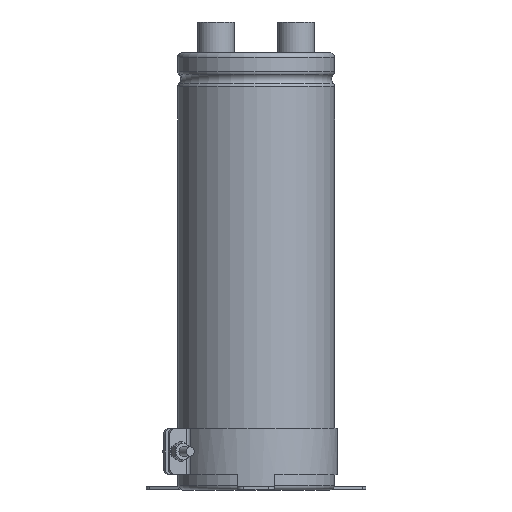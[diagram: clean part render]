
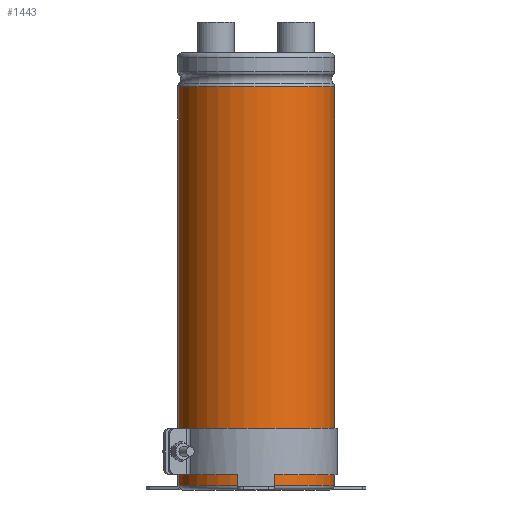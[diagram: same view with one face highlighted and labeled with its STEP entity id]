
A CAD part, left-side view. The second image highlights one B-rep face of the part: STEP entity #1443.
In plain terms, the highlighted cylindrical face has radius 25.5 mm (diameter 51 mm), a partial arc.
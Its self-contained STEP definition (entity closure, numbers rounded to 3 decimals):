
#421=LINE('',#8075,#635);
#422=LINE('',#8079,#636);
#635=VECTOR('',#5948,1.);
#636=VECTOR('',#5951,1.);
#1096=FACE_OUTER_BOUND('',#1908,.T.);
#1443=ADVANCED_FACE('',(#1096),#1554,.T.);
#1554=CYLINDRICAL_SURFACE('',#4869,25.5);
#1908=EDGE_LOOP('',(#2925,#2926,#2927,#2928));
#2925=ORIENTED_EDGE('',*,*,#4079,.T.);
#2926=ORIENTED_EDGE('',*,*,#4080,.T.);
#2927=ORIENTED_EDGE('',*,*,#4081,.F.);
#2928=ORIENTED_EDGE('',*,*,#4082,.F.);
#3512=VERTEX_POINT('',#8068);
#3514=VERTEX_POINT('',#8072);
#3515=VERTEX_POINT('',#8076);
#3516=VERTEX_POINT('',#8078);
#4079=EDGE_CURVE('',#3512,#3514,#4398,.T.);
#4080=EDGE_CURVE('',#3514,#3515,#421,.T.);
#4081=EDGE_CURVE('',#3516,#3515,#4399,.T.);
#4082=EDGE_CURVE('',#3512,#3516,#422,.T.);
#4398=CIRCLE('',#4866,25.5);
#4399=CIRCLE('',#4868,25.5);
#4866=AXIS2_PLACEMENT_3D('',#8073,#5944,#5945);
#4868=AXIS2_PLACEMENT_3D('',#8077,#5949,#5950);
#4869=AXIS2_PLACEMENT_3D('',#8080,#5952,#5953);
#5944=DIRECTION('',(0.,0.,-1.));
#5945=DIRECTION('',(0.,1.,0.));
#5948=DIRECTION('',(0.,0.,-1.));
#5949=DIRECTION('',(0.,0.,-1.));
#5950=DIRECTION('',(0.,1.,0.));
#5951=DIRECTION('',(0.,0.,-1.));
#5952=DIRECTION('',(0.,0.,-1.));
#5953=DIRECTION('',(0.,1.,0.));
#8068=CARTESIAN_POINT('',(5.084,24.988,130.9));
#8072=CARTESIAN_POINT('',(-5.084,24.988,130.9));
#8073=CARTESIAN_POINT('',(0.,0.,130.9));
#8075=CARTESIAN_POINT('',(-5.084,24.988,130.9));
#8076=CARTESIAN_POINT('',(-5.084,24.988,1.5));
#8077=CARTESIAN_POINT('',(0.,0.,1.5));
#8078=CARTESIAN_POINT('',(5.084,24.988,1.5));
#8079=CARTESIAN_POINT('',(5.084,24.988,130.9));
#8080=CARTESIAN_POINT('',(0.,0.,0.));
